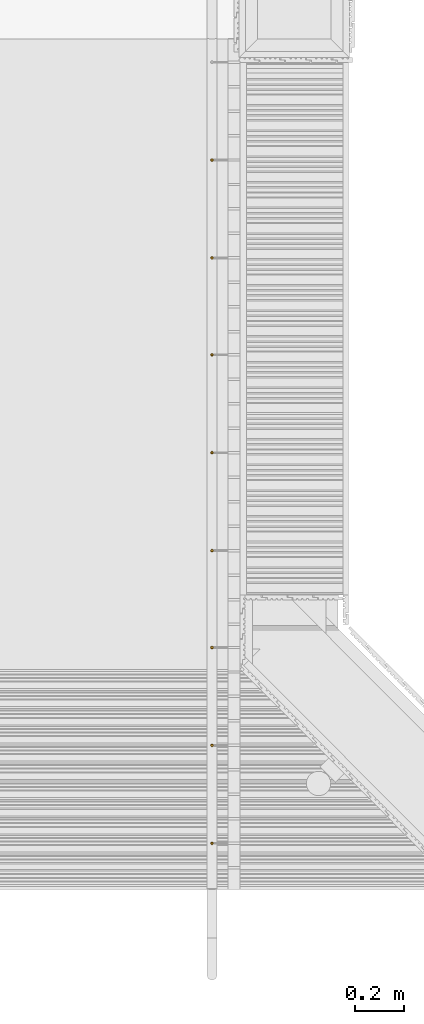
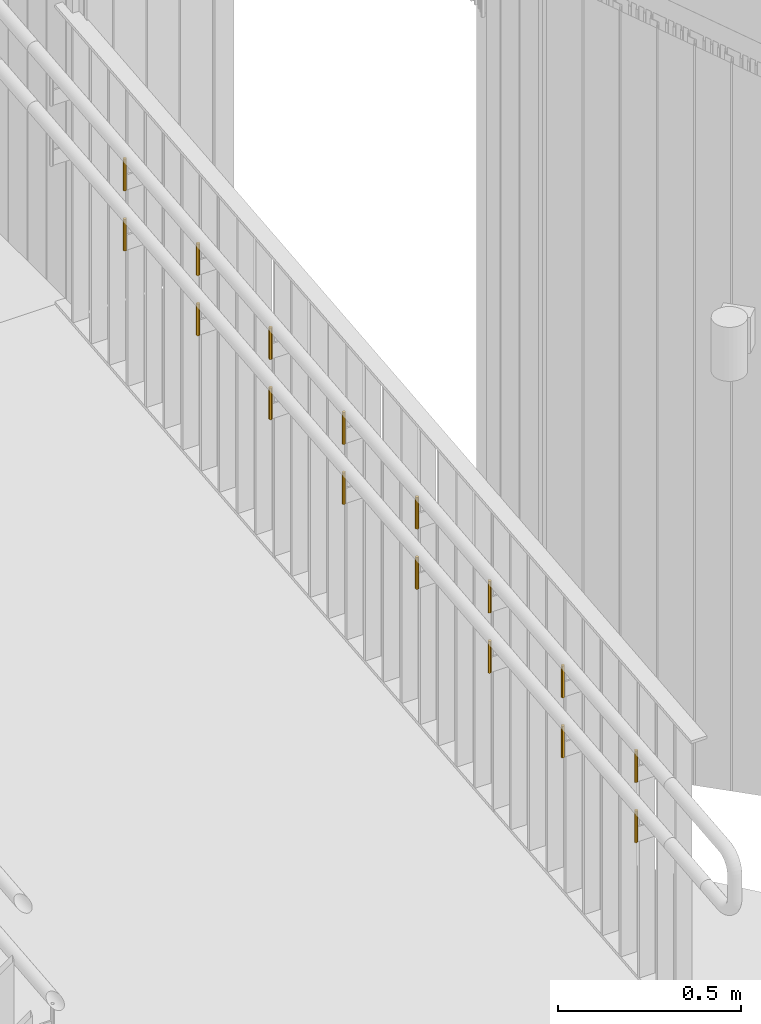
# One storey, part 159 of 418: 16 railings.
"""IFC2X3 building model written with IfcOpenShell, lengths in millimetres."""

from ifc_helpers import new_model, entity, si_unit, converted_unit, derived_unit, money_unit, direction, frame, origin_with_axes, origin_2d_with_axis, place, context, subcontext, project, spatial, circle, extrude, material, type_object, element, save


model = new_model("IFC2X3")

# Units and contexts
model_context = context("Model", 3, precision=0.01, world=origin_with_axes(), true_north=direction((0.0, 1.0)))
body_context = subcontext(model_context, "Body", "Model", "MODEL_VIEW")
ifc_project = project(units=[si_unit("LENGTHUNIT", "METRE", prefix="MILLI"), si_unit("AREAUNIT", "SQUARE_METRE"), si_unit("VOLUMEUNIT", "CUBIC_METRE"), converted_unit("PLANEANGLEUNIT", "DEGREE", entity("IfcPlaneAngleMeasure", 0.0174532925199), si_unit("PLANEANGLEUNIT", "RADIAN"), dimensions=[0, 0, 0, 0, 0, 0, 0]), si_unit("SOLIDANGLEUNIT", "STERADIAN"), money_unit("EUR"), converted_unit("TIMEUNIT", "Year", entity("IfcTimeMeasure", 31556926.0), si_unit("TIMEUNIT", "SECOND"), dimensions=[0, 0, 1, 0, 0, 0, 0]), si_unit("MASSUNIT", "GRAM", prefix="KILO"), si_unit("THERMODYNAMICTEMPERATUREUNIT", "DEGREE_CELSIUS"), si_unit("LUMINOUSINTENSITYUNIT", "LUMEN"), si_unit("ENERGYUNIT", "JOULE", prefix="MEGA"), derived_unit("THERMALCONDUCTANCEUNIT", [(si_unit("POWERUNIT", "WATT"), 1), (si_unit("LENGTHUNIT", "METRE"), -1), (si_unit("THERMODYNAMICTEMPERATUREUNIT", "KELVIN"), -1)]), derived_unit("SPECIFICHEATCAPACITYUNIT", [(si_unit("ENERGYUNIT", "JOULE"), 1), (si_unit("MASSUNIT", "GRAM", prefix="KILO"), -1), (si_unit("THERMODYNAMICTEMPERATUREUNIT", "KELVIN"), -1)]), derived_unit("MASSDENSITYUNIT", [(si_unit("MASSUNIT", "GRAM", prefix="KILO"), 1), (si_unit("VOLUMEUNIT", "CUBIC_METRE"), -1)])], contexts=[model_context])

# Site, building, storey
site_placement = place(None, origin_with_axes())
site = spatial("IfcSite", under=ifc_project, at=site_placement, Name="Paldiski mnt 245/1, Tallinn, Harjumaa", CompositionType="COMPLEX")
building_placement = place(site_placement, origin_with_axes())
building = spatial("IfcBuilding", under=site, at=building_placement, Name="RKAS Hoone üldnimetus (kasutust iseloomustav) -> IFC Project Manager -> SOLIBRI", CompositionType="ELEMENT")
storey_placement = place(building_placement, origin_with_axes())
storey = spatial("IfcBuildingStorey", under=building, at=storey_placement, Name="Esimene korrus", CompositionType="ELEMENT", Elevation=0.0)

# Railings
ifc_material = material(Name="ET-07_Teras - Roostevaba")
railing_type = type_object("IfcRailingType", Name="ET-07_Teras - Roostevaba D10", PredefinedType="NOTDEFINED")
for number, where, z_axis, x_axis in (
    (1, (-38905.9992191, -15725.0843011, 684.800460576), (0.0, 0.0, 1.0), (-1.0, 0.0, 0.0)),
    (2, (-38905.9992191, -15725.0843011, 484.378560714), (0.0, 0.0, 1.0), (-1.0, 0.0, 0.0)),
    (3, (-38905.9992191, -17717.0843011, 285.178432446), (0.0, 0.0, 1.0), (-1.0, 0.0, 0.0)),
    (4, (-38905.9992191, -18517.0843011, 205.178379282), (0.0, 0.0, 1.0), (-1.0, 0.0, 0.0)),
    (5, (-38905.9992191, -18517.0843011, 405.600279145), (0.0, 0.0, 1.0), (-1.0, 0.0, 0.0)),
    (6, (-38905.9992191, -17717.0843011, 485.600332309), (0.0, 0.0, 1.0), (-1.0, 0.0, 0.0)),
    (7, (-38905.9992191, -16521.0843011, 404.778511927), (0.0, 0.0, 1.0), (-1.0, 0.0, 0.0)),
    (8, (-38905.9992191, -16521.0843011, 605.200411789), (0.0, 0.0, 1.0), (-1.0, 0.0, 0.0)),
    (9, (-38905.9992191, -16125.0843011, 444.378538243), (0.0, 0.0, 1.0), (-1.0, 0.0, 0.0)),
    (10, (-38905.9992191, -16125.0843011, 644.800438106), (0.0, 0.0, 1.0), (-1.0, 0.0, 0.0)),
    (11, (-38905.9992191, -17321.0843011, 324.778454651), (0.0, 0.0, 1.0), (-1.0, 0.0, 0.0)),
    (12, (-38905.9992191, -17321.0843011, 525.200354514), (0.0, 0.0, 1.0), (-1.0, 0.0, 0.0)),
    (13, (-38905.9992191, -16921.0843011, 364.778485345), (0.0, 0.0, 1.0), (-1.0, 0.0, 0.0)),
    (14, (-38905.9992191, -16921.0843011, 565.200385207), (0.0, 0.0, 1.0), (-1.0, 0.0, 0.0)),
    (15, (-38905.9992191, -18117.0843011, 245.178401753), (0.0, 0.0, 1.0), (-1.0, 0.0, 0.0)),
    (16, (-38905.9992191, -18117.0843011, 445.600301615), (0.0, 0.0, 1.0), (-1.0, 0.0, 0.0)),
):
    element("IfcRailing", number, at=place(storey_placement, frame(where, z_axis=z_axis, x_axis=x_axis)), inside=storey, type_object=railing_type, material=ifc_material, Name="Trepipiire", PredefinedType="NOTDEFINED", context=body_context, shape_type="SweptSolid", body=[
        extrude(circle(Radius=5.0, at=origin_2d_with_axis()), origin_with_axes(), (0.0, 0.0, 1.0), 106.0),
    ])

save(model, "model.ifc")
